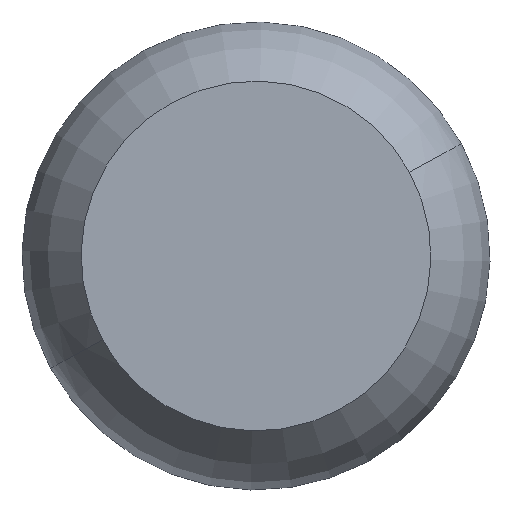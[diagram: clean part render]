
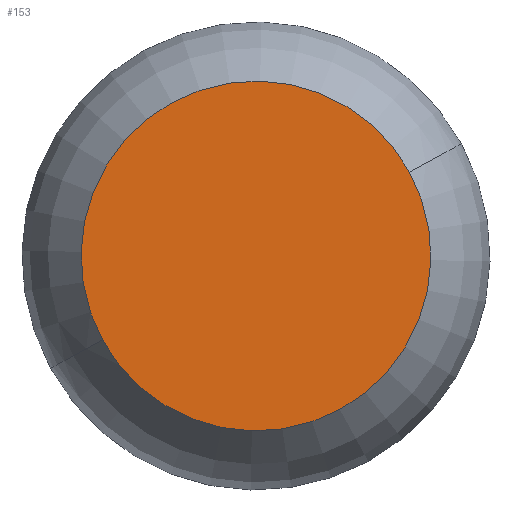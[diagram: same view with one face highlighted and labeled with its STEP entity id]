
A CAD part, front view. The second image highlights one B-rep face of the part: STEP entity #153.
In plain terms, the highlighted planar face has unit normal (0, -1, 0).
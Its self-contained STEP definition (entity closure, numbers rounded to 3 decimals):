
#66=CARTESIAN_POINT('Axis2P3D Location',(0.,0.,0.)) ;
#70=CARTESIAN_POINT('Vertex',(81.615,0.,44.587)) ;
#72=CARTESIAN_POINT('Vertex',(-81.615,0.,-44.587)) ;
#127=CARTESIAN_POINT('Axis2P3D Location',(0.,0.,0.)) ;
#144=CARTESIAN_POINT('Axis2P3D Location',(0.,0.,0.)) ;
#67=DIRECTION('Axis2P3D Direction',(0.,-1.,0.)) ;
#128=DIRECTION('Axis2P3D Direction',(0.,-1.,0.)) ;
#145=DIRECTION('Axis2P3D Direction',(0.,-1.,0.)) ;
#146=DIRECTION('Axis2P3D XDirection',(1.,0.,0.)) ;
#68=AXIS2_PLACEMENT_3D('Circle Axis2P3D',#66,#67,$) ;
#129=AXIS2_PLACEMENT_3D('Circle Axis2P3D',#127,#128,$) ;
#147=AXIS2_PLACEMENT_3D('Plane Axis2P3D',#144,#145,#146) ;
#150=ORIENTED_EDGE('',*,*,#74,.T.) ;
#151=ORIENTED_EDGE('',*,*,#131,.T.) ;
#153=ADVANCED_FACE('PartBody',(#152),#148,.T.) ;
#69=CIRCLE('generated circle',#68,93.) ;
#130=CIRCLE('generated circle',#129,93.) ;
#74=EDGE_CURVE('',#71,#73,#69,.T.) ;
#131=EDGE_CURVE('',#73,#71,#130,.T.) ;
#149=EDGE_LOOP('',(#150,#151)) ;
#152=FACE_OUTER_BOUND('',#149,.T.) ;
#148=PLANE('',#147) ;
#71=VERTEX_POINT('',#70) ;
#73=VERTEX_POINT('',#72) ;
